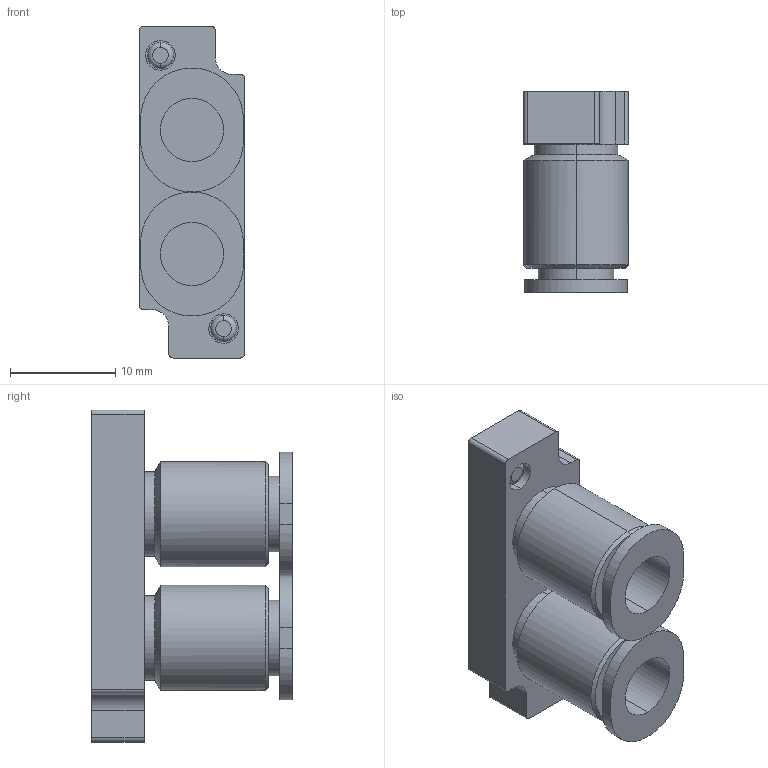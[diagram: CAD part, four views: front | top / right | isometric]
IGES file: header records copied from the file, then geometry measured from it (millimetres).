
Start section: ------------------------------------------------------------------------
Global section: file name: D:\ICADMX\tmp\trans3d_spg\CVICAD02.10028.F10_Port_VJ6_8595.igs; native system: spGate; preprocessor: ver12.6.6; author: Unknown; organization: Unknown; date: 200901.142431; units: millimetre
Bounding box: 10 x 19.1 x 31.6 mm (x, y, z)
Volume: 2890.2 mm3; surface area: 2600.7 mm2
Topology: 1 solids, 1 shells, 70 faces, 156 edges, 100 vertices
Faces by surface type: bspline 70
